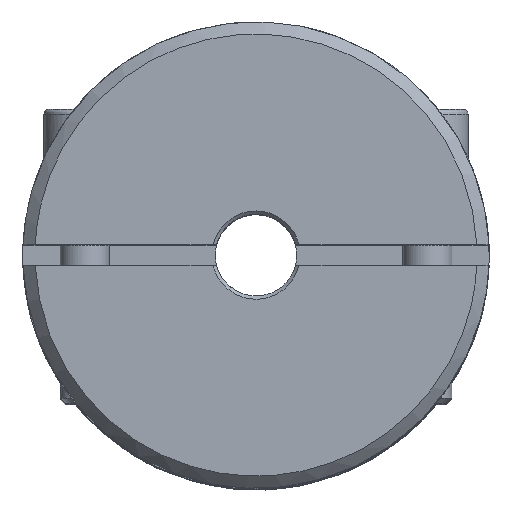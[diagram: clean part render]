
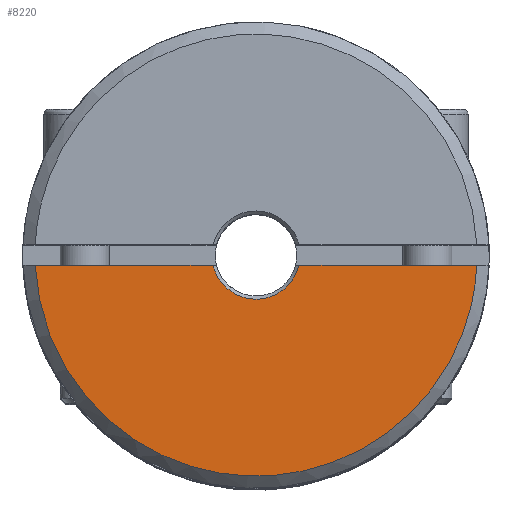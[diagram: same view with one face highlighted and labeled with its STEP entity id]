
A CAD part, top view. The second image highlights one B-rep face of the part: STEP entity #8220.
In plain terms, the highlighted free-form (B-spline) face has degree [3, 3] with [4, 4] control points.
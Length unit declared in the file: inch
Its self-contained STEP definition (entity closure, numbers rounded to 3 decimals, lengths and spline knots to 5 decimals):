
#1342=CARTESIAN_POINT('',(3.08474,2.57081,1.63944));
#1370=CARTESIAN_POINT('',(0.95512,2.57081,1.63944));
#1377=DIRECTION('',(-1.,0.,0.));
#1378=VECTOR('',#1377,0.85798);
#1379=CARTESIAN_POINT('',(3.08474,2.57081,1.63944));
#1380=LINE('',#1379,#1378);
#1381=CARTESIAN_POINT('',(0.95512,2.57081,1.63944));
#1382=CARTESIAN_POINT('',(0.95796,2.5095,1.63944));
#1383=CARTESIAN_POINT('',(0.97446,2.38305,1.63944));
#1384=CARTESIAN_POINT('',(1.03703,2.19065,1.63944));
#1385=CARTESIAN_POINT('',(1.1394,2.00683,1.63944));
#1386=CARTESIAN_POINT('',(1.27898,1.84372,1.63944));
#1387=CARTESIAN_POINT('',(1.44839,1.71191,1.63944));
#1388=CARTESIAN_POINT('',(1.6053,1.63386,1.63944));
#1389=CARTESIAN_POINT('',(1.73418,1.59145,1.63944));
#1390=CARTESIAN_POINT('',(1.83109,1.56941,1.63944));
#1391=CARTESIAN_POINT('',(1.9109,1.55884,1.63944));
#1392=CARTESIAN_POINT('',(1.97371,1.55474,1.63944));
#1393=CARTESIAN_POINT('',(2.01993,1.55375,1.63944));
#1394=CARTESIAN_POINT('',(2.06615,1.55474,1.63944));
#1395=CARTESIAN_POINT('',(2.12896,1.55884,1.63944));
#1396=CARTESIAN_POINT('',(2.20878,1.56941,1.63944));
#1397=CARTESIAN_POINT('',(2.30568,1.59145,1.63944));
#1398=CARTESIAN_POINT('',(2.43456,1.63386,1.63944));
#1399=CARTESIAN_POINT('',(2.59147,1.71191,1.63944));
#1400=CARTESIAN_POINT('',(2.76088,1.84372,1.63944));
#1401=CARTESIAN_POINT('',(2.90047,2.00683,1.63944));
#1402=CARTESIAN_POINT('',(3.00284,2.19065,1.63944));
#1403=CARTESIAN_POINT('',(3.0654,2.38305,1.63944));
#1404=CARTESIAN_POINT('',(3.08191,2.5095,1.63944));
#1405=CARTESIAN_POINT('',(3.08474,2.57081,1.63944));
#1407=DIRECTION('',(-1.,0.,0.));
#1408=VECTOR('',#1407,0.85798);
#1409=CARTESIAN_POINT('',(1.81311,2.57081,1.63944));
#1410=LINE('',#1409,#1408);
#1411=CARTESIAN_POINT('',(2.22675,2.57081,1.63944));
#1412=CARTESIAN_POINT('',(2.22167,2.54944,1.63944));
#1413=CARTESIAN_POINT('',(2.20415,2.50585,1.63944));
#1414=CARTESIAN_POINT('',(2.16273,2.45912,1.63944));
#1415=CARTESIAN_POINT('',(2.12141,2.43201,1.63944));
#1416=CARTESIAN_POINT('',(2.0879,2.41751,1.63944));
#1417=CARTESIAN_POINT('',(2.05923,2.41053,1.63944));
#1418=CARTESIAN_POINT('',(2.03653,2.40785,1.63944));
#1419=CARTESIAN_POINT('',(2.01993,2.40721,1.63944));
#1420=CARTESIAN_POINT('',(2.00333,2.40785,1.63944));
#1421=CARTESIAN_POINT('',(1.98063,2.41053,1.63944));
#1422=CARTESIAN_POINT('',(1.95196,2.41751,1.63944));
#1423=CARTESIAN_POINT('',(1.91845,2.43201,1.63944));
#1424=CARTESIAN_POINT('',(1.87713,2.45912,1.63944));
#1425=CARTESIAN_POINT('',(1.83571,2.50585,1.63944));
#1426=CARTESIAN_POINT('',(1.81819,2.54944,1.63944));
#1427=CARTESIAN_POINT('',(1.81311,2.57081,1.63944));
#1429=CARTESIAN_POINT('',(2.22675,2.57081,1.63944));
#5498=VERTEX_POINT('',#1370);
#5500=CARTESIAN_POINT('',(1.81311,2.57081,1.63944));
#5501=VERTEX_POINT('',#5500);
#5506=VERTEX_POINT('',#1342);
#5513=VERTEX_POINT('',#1429);
#8196=CARTESIAN_POINT('',(0.91253,1.53276,1.63944));
#8197=CARTESIAN_POINT('',(0.91253,1.88556,1.63944));
#8198=CARTESIAN_POINT('',(0.91253,2.23836,1.63944));
#8199=CARTESIAN_POINT('',(0.91253,2.59116,1.63944));
#8200=CARTESIAN_POINT('',(1.6508,1.53276,1.63944));
#8201=CARTESIAN_POINT('',(1.6508,1.88556,1.63944));
#8202=CARTESIAN_POINT('',(1.6508,2.23836,1.63944));
#8203=CARTESIAN_POINT('',(1.6508,2.59116,1.63944));
#8204=CARTESIAN_POINT('',(2.38906,1.53276,1.63944));
#8205=CARTESIAN_POINT('',(2.38906,1.88556,1.63944));
#8206=CARTESIAN_POINT('',(2.38906,2.23836,1.63944));
#8207=CARTESIAN_POINT('',(2.38906,2.59116,1.63944));
#8208=CARTESIAN_POINT('',(3.12733,1.53276,1.63944));
#8209=CARTESIAN_POINT('',(3.12733,1.88556,1.63944));
#8210=CARTESIAN_POINT('',(3.12733,2.23836,1.63944));
#8211=CARTESIAN_POINT('',(3.12733,2.59116,1.63944));
#8212=B_SPLINE_SURFACE_WITH_KNOTS('',3,3,((#8196,#8197,#8198,#8199),(#8200,
#8201,#8202,#8203),(#8204,#8205,#8206,#8207),(#8208,#8209,#8210,#8211)),
.UNSPECIFIED.,.F.,.F.,.F.,(4,4),(4,4),(-2.8128,2.8128),(
-2.76164,-0.0733),.UNSPECIFIED.);
#8213=ORIENTED_EDGE('',*,*,#8142,.F.);
#8214=ORIENTED_EDGE('',*,*,#8184,.F.);
#8215=ORIENTED_EDGE('',*,*,#8067,.F.);
#8217=ORIENTED_EDGE('',*,*,#8216,.F.);
#8218=EDGE_LOOP('',(#8213,#8214,#8215,#8217));
#8219=FACE_OUTER_BOUND('',#8218,.F.);
#1406=B_SPLINE_CURVE_WITH_KNOTS('',3,(#1381,#1382,#1383,#1384,#1385,#1386,#1387,
#1388,#1389,#1390,#1391,#1392,#1393,#1394,#1395,#1396,#1397,#1398,#1399,#1400,
#1401,#1402,#1403,#1404,#1405),.UNSPECIFIED.,.F.,.F.,(4,1,1,1,1,1,1,1,1,1,1,1,1,
1,1,1,1,1,1,1,1,1,4),(0.,0.0625,0.125,0.1875,0.25,0.3125,0.375,
0.40625,0.4375,0.46875,0.48438,0.5,0.51563,0.53125,0.5625,
0.59375,0.625,0.6875,0.75,0.8125,0.875,0.9375,1.),
.UNSPECIFIED.);
#1428=B_SPLINE_CURVE_WITH_KNOTS('',3,(#1411,#1412,#1413,#1414,#1415,#1416,#1417,
#1418,#1419,#1420,#1421,#1422,#1423,#1424,#1425,#1426,#1427),.UNSPECIFIED.,.F.,
.F.,(4,1,1,1,1,1,1,1,1,1,1,1,1,1,4),(0.,0.125,0.25,0.3125,0.375,
0.4375,0.46875,0.5,0.53125,0.5625,0.625,0.6875,0.75,0.875,
1.),.UNSPECIFIED.);
#8067=EDGE_CURVE('',#5501,#5498,#1410,.T.);
#8142=EDGE_CURVE('',#5506,#5513,#1380,.T.);
#8184=EDGE_CURVE('',#5498,#5506,#1406,.T.);
#8216=EDGE_CURVE('',#5513,#5501,#1428,.T.);
#8220=ADVANCED_FACE('',(#8219),#8212,.T.);
